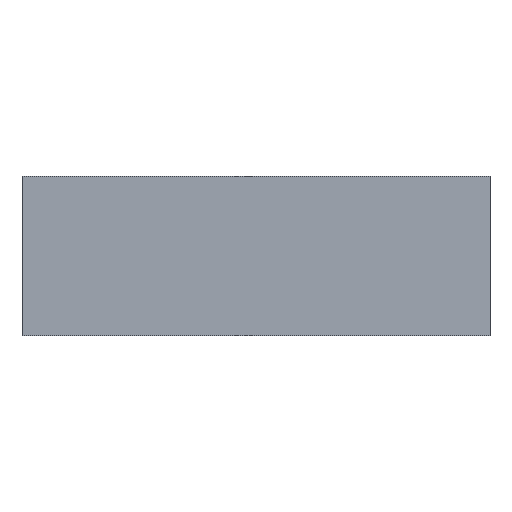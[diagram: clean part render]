
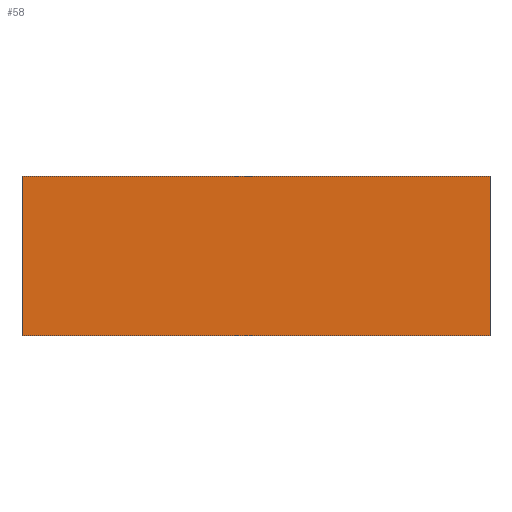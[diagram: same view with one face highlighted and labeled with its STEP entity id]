
A CAD part, front view. The second image highlights one B-rep face of the part: STEP entity #58.
In plain terms, the highlighted planar face has unit normal (0, -1, 0).
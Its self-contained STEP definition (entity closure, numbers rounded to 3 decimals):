
#33 = CARTESIAN_POINT ( 'NONE',  ( 176., 0., 120. ) ) ;
#34 = DIRECTION ( 'NONE',  ( 1., 0., 0. ) ) ;
#35 = CARTESIAN_POINT ( 'NONE',  ( -176., 0., 120. ) ) ;
#43 = DIRECTION ( 'NONE',  ( 0., 0., -1. ) ) ;
#45 = CARTESIAN_POINT ( 'NONE',  ( -176., 0., 120. ) ) ;
#46 = DIRECTION ( 'NONE',  ( 0., 0., -1. ) ) ;
#51 = CARTESIAN_POINT ( 'NONE',  ( -176., 0., 0. ) ) ;
#52 = DIRECTION ( 'NONE',  ( 1., 0., 0. ) ) ;
#58 = ADVANCED_FACE ( 'NONE', ( #202 ), #150, .F. ) ;
#75 = VERTEX_POINT ( 'NONE', #110 ) ;
#77 = VERTEX_POINT ( 'NONE', #105 ) ;
#85 = VERTEX_POINT ( 'NONE', #102 ) ;
#98 = CARTESIAN_POINT ( 'NONE',  ( 176., 0., 120. ) ) ;
#102 = CARTESIAN_POINT ( 'NONE',  ( 176., 0., 0. ) ) ;
#105 = CARTESIAN_POINT ( 'NONE',  ( -176., 0., 0. ) ) ;
#110 = CARTESIAN_POINT ( 'NONE',  ( -176., 0., 120. ) ) ;
#114 = VERTEX_POINT ( 'NONE', #98 ) ;
#140 = DIRECTION ( 'NONE',  ( -1., 0., 0. ) ) ;
#141 = DIRECTION ( 'NONE',  ( 0., 1., 0. ) ) ;
#147 = CARTESIAN_POINT ( 'NONE',  ( -176., 0., 120. ) ) ;
#150 = PLANE ( 'NONE',  #296 ) ;
#180 = EDGE_LOOP ( 'NONE', ( #215, #253, #183, #182 ) ) ;
#182 = ORIENTED_EDGE ( 'NONE', *, *, #328, .T. ) ;
#183 = ORIENTED_EDGE ( 'NONE', *, *, #318, .F. ) ;
#202 = FACE_OUTER_BOUND ( 'NONE', #180, .T. ) ;
#208 = VECTOR ( 'NONE', #52, 1000. ) ;
#209 = LINE ( 'NONE', #51, #208 ) ;
#210 = VECTOR ( 'NONE', #43, 1000. ) ;
#215 = ORIENTED_EDGE ( 'NONE', *, *, #324, .T. ) ;
#249 = LINE ( 'NONE', #35, #284 ) ;
#253 = ORIENTED_EDGE ( 'NONE', *, *, #326, .F. ) ;
#273 = LINE ( 'NONE', #45, #274 ) ;
#274 = VECTOR ( 'NONE', #46, 1000. ) ;
#276 = LINE ( 'NONE', #33, #210 ) ;
#284 = VECTOR ( 'NONE', #34, 1000. ) ;
#296 = AXIS2_PLACEMENT_3D ( 'NONE', #147, #141, #140 ) ;
#318 = EDGE_CURVE ( 'NONE', #75, #114, #249, .T. ) ;
#324 = EDGE_CURVE ( 'NONE', #77, #85, #209, .T. ) ;
#326 = EDGE_CURVE ( 'NONE', #114, #85, #276, .T. ) ;
#328 = EDGE_CURVE ( 'NONE', #75, #77, #273, .T. ) ;
